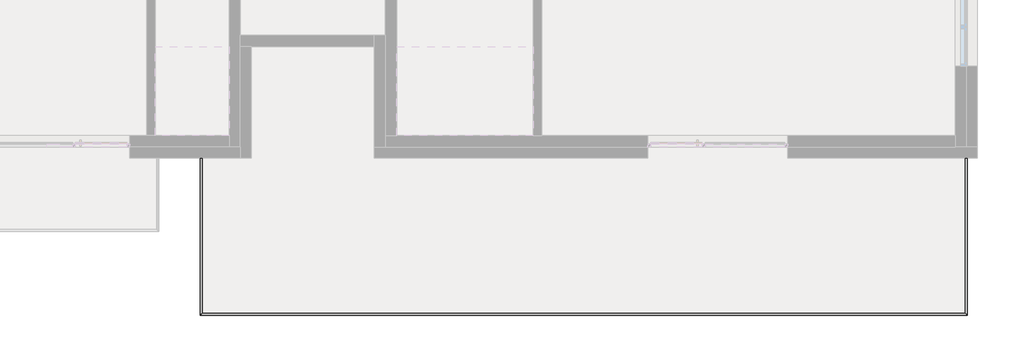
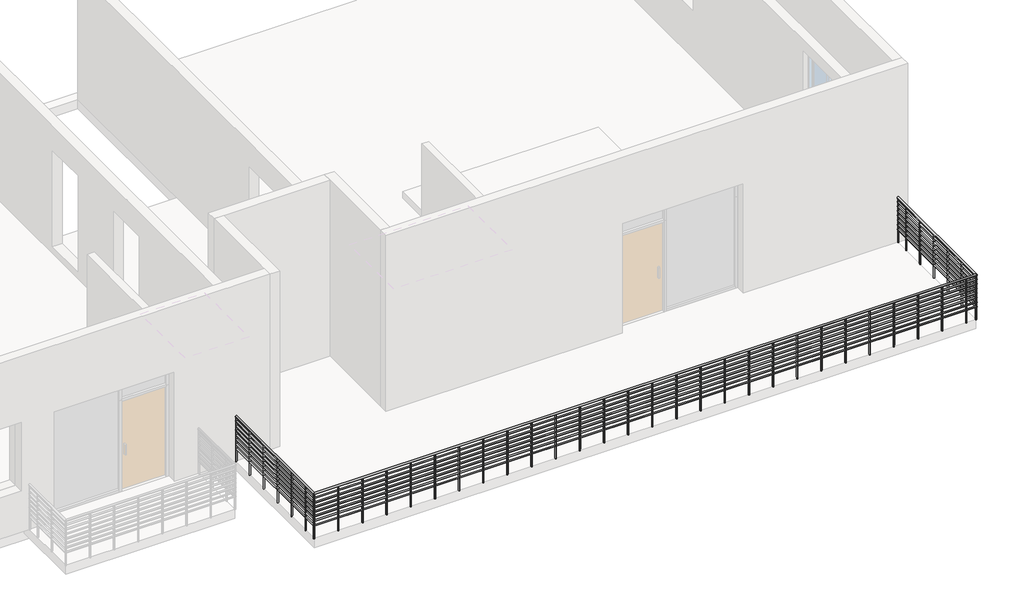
# One storey, part 5 of 6: 1 railing.
"""IFC4 building model written with IfcOpenShell, lengths in millimetres."""

from ifc_helpers import new_model, si_unit, point, frame, frame_2d, origin, place, context, project, spatial, circle_curve, ellipse_curve, trimmed, segment, composite_curve, outline, extrude, element, save
from ifc_brep_helpers import plane_surface, cylinder_surface, advanced_brep

model = new_model("IFC4")

# Units and contexts
model_context = context("Model", 3, world=origin())
ifc_project = project(units=[si_unit("LENGTHUNIT", "METRE", prefix="MILLI")], contexts=[model_context])

# Site, building, storey
site = spatial("IfcSite", under=ifc_project)
building = spatial("IfcBuilding", under=site)
storey = spatial("IfcBuildingStorey", under=building, Name="Podlaží 2", Elevation=3000.0)

# Railing
placement = place(None, origin())
element("IfcRailing", 1, ObjectType="1000 mm trubky", at=placement, inside=storey, context=model_context, shape_type="SolidModel", body=[
    advanced_brep(
    [(9480.0, 2100.0, 3980.0), (9520.0, 2100.0, 3980.0), (9480.0, -720.0, 3980.0), (9520.0, -680.0, 3980.0), (23220.0, -720.0, 3980.0), (23180.0, -680.0, 3980.0), (23220.0, 2100.0, 3980.0), (23180.0, 2100.0, 3980.0)],
    [
        (0, 1, circle_curve(frame((9500.0, 2100.0, 3980.0), z_axis=(0.0, 1.0, 0.0), x_axis=(1.0, 0.0, 0.0)), 20.0)),
        (1, 0, circle_curve(frame((9500.0, 2100.0, 3980.0), z_axis=(0.0, 1.0, 0.0), x_axis=(1.0, 0.0, 0.0)), 20.0)),
        (0, 2),
        (2, 3, ellipse_curve(frame((9500.0, -700.0, 3980.0), z_axis=(-0.707106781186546, 0.7071067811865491, 0.0), x_axis=(0.7071067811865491, 0.7071067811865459, 0.0)), 28.2842712, 20.0)),
        (3, 1),
        (3, 2, ellipse_curve(frame((9500.0, -700.0, 3980.0), z_axis=(-0.707106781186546, 0.7071067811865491, 0.0), x_axis=(0.7071067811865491, 0.7071067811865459, 0.0)), 28.2842712, 20.0)),
        (2, 4),
        (4, 5, ellipse_curve(frame((23200.0, -700.0, 3980.0), z_axis=(-0.707106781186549, -0.7071067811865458, 0.0), x_axis=(-0.7071067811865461, 0.7071067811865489, 0.0)), 28.2842712, 20.0)),
        (5, 3),
        (5, 4, ellipse_curve(frame((23200.0, -700.0, 3980.0), z_axis=(-0.707106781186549, -0.7071067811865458, 0.0), x_axis=(-0.7071067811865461, 0.7071067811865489, 0.0)), 28.2842712, 20.0)),
        (6, 7, circle_curve(frame((23200.0, 2100.0, 3980.0), z_axis=(0.0, 1.0, 0.0), x_axis=(-1.0, 0.0, 0.0)), 20.0)),
        (7, 6, circle_curve(frame((23200.0, 2100.0, 3980.0), z_axis=(0.0, 1.0, 0.0), x_axis=(-1.0, 0.0, 0.0)), 20.0)),
        (4, 6),
        (7, 5),
    ],
    [
        plane_surface(frame((9500.0, 2100.0, 4000.0), z_axis=(0.0, 1.0, 0.0), x_axis=(0.0, 0.0, -1.0))),
        cylinder_surface(frame((9500.0, 2100.0, 3980.0), z_axis=(0.0, 1.0, 0.0), x_axis=(1.0, 0.0, 0.0)), 20.0),
        cylinder_surface(frame((9500.0, -700.0, 3980.0), z_axis=(-1.0, 0.0, 0.0), x_axis=(0.0, 1.0, 0.0)), 20.0),
        plane_surface(frame((23200.0, 2100.0, 4000.0), z_axis=(0.0, 1.0, 0.0), x_axis=(0.0, 0.0, 1.0))),
        cylinder_surface(frame((23200.0, -700.0, 3980.0), z_axis=(0.0, -1.0, 0.0), x_axis=(-1.0, 0.0, 0.0)), 20.0),
    ],
    [
        (0, [[1, 2]]),
        (1, [[-1, 3, 4, 5]]),
        (1, [[-2, -5, 6, -3]]),
        (2, [[-4, 7, 8, 9]]),
        (2, [[-6, -9, 10, -7]]),
        (3, [[11, 12]]),
        (4, [[-8, 13, -12, 14]]),
        (4, [[-10, -14, -11, -13]]),
    ],
),
    advanced_brep(
    [(9515.0, 2100.0, 3885.0), (9485.0, 2100.0, 3885.0), (9515.0, -685.0, 3885.0), (9485.0, -715.0, 3885.0), (23185.0, -685.0, 3885.0), (23215.0, -715.0, 3885.0), (23185.0, 2100.0, 3885.0), (23215.0, 2100.0, 3885.0)],
    [
        (0, 1, circle_curve(frame((9500.0, 2100.0, 3885.0), z_axis=(0.0, 1.0, 0.0), x_axis=(-1.0, 0.0, 0.0)), 15.0)),
        (1, 0, circle_curve(frame((9500.0, 2100.0, 3885.0), z_axis=(0.0, 1.0, 0.0), x_axis=(-1.0, 0.0, 0.0)), 15.0)),
        (0, 2),
        (2, 3, ellipse_curve(frame((9500.0, -700.0, 3885.0), z_axis=(-0.707106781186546, 0.7071067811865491, 0.0), x_axis=(0.7071067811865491, 0.7071067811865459, 0.0)), 21.2132034, 15.0)),
        (3, 1),
        (3, 2, ellipse_curve(frame((9500.0, -700.0, 3885.0), z_axis=(-0.707106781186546, 0.7071067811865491, 0.0), x_axis=(0.7071067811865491, 0.7071067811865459, 0.0)), 21.2132034, 15.0)),
        (2, 4),
        (4, 5, ellipse_curve(frame((23200.0, -700.0, 3885.0), z_axis=(-0.707106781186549, -0.7071067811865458, 0.0), x_axis=(-0.7071067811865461, 0.7071067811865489, 0.0)), 21.2132034, 15.0)),
        (5, 3),
        (5, 4, ellipse_curve(frame((23200.0, -700.0, 3885.0), z_axis=(-0.707106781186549, -0.7071067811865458, 0.0), x_axis=(-0.7071067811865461, 0.7071067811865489, 0.0)), 21.2132034, 15.0)),
        (6, 7, circle_curve(frame((23200.0, 2100.0, 3885.0), z_axis=(0.0, 1.0, 0.0), x_axis=(1.0, 0.0, 0.0)), 15.0)),
        (7, 6, circle_curve(frame((23200.0, 2100.0, 3885.0), z_axis=(0.0, 1.0, 0.0), x_axis=(1.0, 0.0, 0.0)), 15.0)),
        (4, 6),
        (7, 5),
    ],
    [
        plane_surface(frame((9500.0, 2100.0, 3900.0), z_axis=(0.0, 1.0, 0.0), x_axis=(0.0, 0.0, -1.0))),
        cylinder_surface(frame((9500.0, 2100.0, 3885.0), z_axis=(0.0, 1.0, 0.0), x_axis=(-1.0, 0.0, 0.0)), 15.0),
        cylinder_surface(frame((9500.0, -700.0, 3885.0), z_axis=(-1.0, 0.0, 0.0), x_axis=(0.0, -1.0, 0.0)), 15.0),
        plane_surface(frame((23200.0, 2100.0, 3900.0), z_axis=(0.0, 1.0, 0.0), x_axis=(0.0, 0.0, 1.0))),
        cylinder_surface(frame((23200.0, -700.0, 3885.0), z_axis=(0.0, -1.0, 0.0), x_axis=(1.0, 0.0, 0.0)), 15.0),
    ],
    [
        (0, [[1, 2]]),
        (1, [[-1, 3, 4, 5]]),
        (1, [[-2, -5, 6, -3]]),
        (2, [[-4, 7, 8, 9]]),
        (2, [[-6, -9, 10, -7]]),
        (3, [[11, 12]]),
        (4, [[-8, 13, -12, 14]]),
        (4, [[-10, -14, -11, -13]]),
    ],
),
    advanced_brep(
    [(9515.0, 2100.0, 3785.0), (9485.0, 2100.0, 3785.0), (9515.0, -685.0, 3785.0), (9485.0, -715.0, 3785.0), (23185.0, -685.0, 3785.0), (23215.0, -715.0, 3785.0), (23185.0, 2100.0, 3785.0), (23215.0, 2100.0, 3785.0)],
    [
        (0, 1, circle_curve(frame((9500.0, 2100.0, 3785.0), z_axis=(0.0, 1.0, 0.0), x_axis=(-1.0, 0.0, 0.0)), 15.0)),
        (1, 0, circle_curve(frame((9500.0, 2100.0, 3785.0), z_axis=(0.0, 1.0, 0.0), x_axis=(-1.0, 0.0, 0.0)), 15.0)),
        (0, 2),
        (2, 3, ellipse_curve(frame((9500.0, -700.0, 3785.0), z_axis=(-0.707106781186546, 0.7071067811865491, 0.0), x_axis=(0.7071067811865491, 0.7071067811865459, 0.0)), 21.2132034, 15.0)),
        (3, 1),
        (3, 2, ellipse_curve(frame((9500.0, -700.0, 3785.0), z_axis=(-0.707106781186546, 0.7071067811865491, 0.0), x_axis=(0.7071067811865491, 0.7071067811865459, 0.0)), 21.2132034, 15.0)),
        (2, 4),
        (4, 5, ellipse_curve(frame((23200.0, -700.0, 3785.0), z_axis=(-0.707106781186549, -0.7071067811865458, 0.0), x_axis=(-0.7071067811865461, 0.7071067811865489, 0.0)), 21.2132034, 15.0)),
        (5, 3),
        (5, 4, ellipse_curve(frame((23200.0, -700.0, 3785.0), z_axis=(-0.707106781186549, -0.7071067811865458, 0.0), x_axis=(-0.7071067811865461, 0.7071067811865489, 0.0)), 21.2132034, 15.0)),
        (6, 7, circle_curve(frame((23200.0, 2100.0, 3785.0), z_axis=(0.0, 1.0, 0.0), x_axis=(1.0, 0.0, 0.0)), 15.0)),
        (7, 6, circle_curve(frame((23200.0, 2100.0, 3785.0), z_axis=(0.0, 1.0, 0.0), x_axis=(1.0, 0.0, 0.0)), 15.0)),
        (4, 6),
        (7, 5),
    ],
    [
        plane_surface(frame((9500.0, 2100.0, 3800.0), z_axis=(0.0, 1.0, 0.0), x_axis=(0.0, 0.0, -1.0))),
        cylinder_surface(frame((9500.0, 2100.0, 3785.0), z_axis=(0.0, 1.0, 0.0), x_axis=(-1.0, 0.0, 0.0)), 15.0),
        cylinder_surface(frame((9500.0, -700.0, 3785.0), z_axis=(-1.0, 0.0, 0.0), x_axis=(0.0, -1.0, 0.0)), 15.0),
        plane_surface(frame((23200.0, 2100.0, 3800.0), z_axis=(0.0, 1.0, 0.0), x_axis=(0.0, 0.0, 1.0))),
        cylinder_surface(frame((23200.0, -700.0, 3785.0), z_axis=(0.0, -1.0, 0.0), x_axis=(1.0, 0.0, 0.0)), 15.0),
    ],
    [
        (0, [[1, 2]]),
        (1, [[-1, 3, 4, 5]]),
        (1, [[-2, -5, 6, -3]]),
        (2, [[-4, 7, 8, 9]]),
        (2, [[-6, -9, 10, -7]]),
        (3, [[11, 12]]),
        (4, [[-8, 13, -12, 14]]),
        (4, [[-10, -14, -11, -13]]),
    ],
),
    advanced_brep(
    [(9515.0, 2100.0, 3685.0), (9485.0, 2100.0, 3685.0), (9515.0, -685.0, 3685.0), (9485.0, -715.0, 3685.0), (23185.0, -685.0, 3685.0), (23215.0, -715.0, 3685.0), (23185.0, 2100.0, 3685.0), (23215.0, 2100.0, 3685.0)],
    [
        (0, 1, circle_curve(frame((9500.0, 2100.0, 3685.0), z_axis=(0.0, 1.0, 0.0), x_axis=(-1.0, 0.0, 0.0)), 15.0)),
        (1, 0, circle_curve(frame((9500.0, 2100.0, 3685.0), z_axis=(0.0, 1.0, 0.0), x_axis=(-1.0, 0.0, 0.0)), 15.0)),
        (0, 2),
        (2, 3, ellipse_curve(frame((9500.0, -700.0, 3685.0), z_axis=(-0.707106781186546, 0.7071067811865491, 0.0), x_axis=(0.7071067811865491, 0.7071067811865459, 0.0)), 21.2132034, 15.0)),
        (3, 1),
        (3, 2, ellipse_curve(frame((9500.0, -700.0, 3685.0), z_axis=(-0.707106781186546, 0.7071067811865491, 0.0), x_axis=(0.7071067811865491, 0.7071067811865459, 0.0)), 21.2132034, 15.0)),
        (2, 4),
        (4, 5, ellipse_curve(frame((23200.0, -700.0, 3685.0), z_axis=(-0.707106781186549, -0.7071067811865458, 0.0), x_axis=(-0.7071067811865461, 0.7071067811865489, 0.0)), 21.2132034, 15.0)),
        (5, 3),
        (5, 4, ellipse_curve(frame((23200.0, -700.0, 3685.0), z_axis=(-0.707106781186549, -0.7071067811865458, 0.0), x_axis=(-0.7071067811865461, 0.7071067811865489, 0.0)), 21.2132034, 15.0)),
        (6, 7, circle_curve(frame((23200.0, 2100.0, 3685.0), z_axis=(0.0, 1.0, 0.0), x_axis=(1.0, 0.0, 0.0)), 15.0)),
        (7, 6, circle_curve(frame((23200.0, 2100.0, 3685.0), z_axis=(0.0, 1.0, 0.0), x_axis=(1.0, 0.0, 0.0)), 15.0)),
        (4, 6),
        (7, 5),
    ],
    [
        plane_surface(frame((9500.0, 2100.0, 3700.0), z_axis=(0.0, 1.0, 0.0), x_axis=(0.0, 0.0, -1.0))),
        cylinder_surface(frame((9500.0, 2100.0, 3685.0), z_axis=(0.0, 1.0, 0.0), x_axis=(-1.0, 0.0, 0.0)), 15.0),
        cylinder_surface(frame((9500.0, -700.0, 3685.0), z_axis=(-1.0, 0.0, 0.0), x_axis=(0.0, -1.0, 0.0)), 15.0),
        plane_surface(frame((23200.0, 2100.0, 3700.0), z_axis=(0.0, 1.0, 0.0), x_axis=(0.0, 0.0, 1.0))),
        cylinder_surface(frame((23200.0, -700.0, 3685.0), z_axis=(0.0, -1.0, 0.0), x_axis=(1.0, 0.0, 0.0)), 15.0),
    ],
    [
        (0, [[1, 2]]),
        (1, [[-1, 3, 4, 5]]),
        (1, [[-2, -5, 6, -3]]),
        (2, [[-4, 7, 8, 9]]),
        (2, [[-6, -9, 10, -7]]),
        (3, [[11, 12]]),
        (4, [[-8, 13, -12, 14]]),
        (4, [[-10, -14, -11, -13]]),
    ],
),
    advanced_brep(
    [(9515.0, 2100.0, 3585.0), (9485.0, 2100.0, 3585.0), (9515.0, -685.0, 3585.0), (9485.0, -715.0, 3585.0), (23185.0, -685.0, 3585.0), (23215.0, -715.0, 3585.0), (23185.0, 2100.0, 3585.0), (23215.0, 2100.0, 3585.0)],
    [
        (0, 1, circle_curve(frame((9500.0, 2100.0, 3585.0), z_axis=(0.0, 1.0, 0.0), x_axis=(-1.0, 0.0, 0.0)), 15.0)),
        (1, 0, circle_curve(frame((9500.0, 2100.0, 3585.0), z_axis=(0.0, 1.0, 0.0), x_axis=(-1.0, 0.0, 0.0)), 15.0)),
        (0, 2),
        (2, 3, ellipse_curve(frame((9500.0, -700.0, 3585.0), z_axis=(-0.707106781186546, 0.7071067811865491, 0.0), x_axis=(0.7071067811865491, 0.7071067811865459, 0.0)), 21.2132034, 15.0)),
        (3, 1),
        (3, 2, ellipse_curve(frame((9500.0, -700.0, 3585.0), z_axis=(-0.707106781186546, 0.7071067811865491, 0.0), x_axis=(0.7071067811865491, 0.7071067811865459, 0.0)), 21.2132034, 15.0)),
        (2, 4),
        (4, 5, ellipse_curve(frame((23200.0, -700.0, 3585.0), z_axis=(-0.707106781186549, -0.7071067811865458, 0.0), x_axis=(-0.7071067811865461, 0.7071067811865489, 0.0)), 21.2132034, 15.0)),
        (5, 3),
        (5, 4, ellipse_curve(frame((23200.0, -700.0, 3585.0), z_axis=(-0.707106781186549, -0.7071067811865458, 0.0), x_axis=(-0.7071067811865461, 0.7071067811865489, 0.0)), 21.2132034, 15.0)),
        (6, 7, circle_curve(frame((23200.0, 2100.0, 3585.0), z_axis=(0.0, 1.0, 0.0), x_axis=(1.0, 0.0, 0.0)), 15.0)),
        (7, 6, circle_curve(frame((23200.0, 2100.0, 3585.0), z_axis=(0.0, 1.0, 0.0), x_axis=(1.0, 0.0, 0.0)), 15.0)),
        (4, 6),
        (7, 5),
    ],
    [
        plane_surface(frame((9500.0, 2100.0, 3600.0), z_axis=(0.0, 1.0, 0.0), x_axis=(0.0, 0.0, -1.0))),
        cylinder_surface(frame((9500.0, 2100.0, 3585.0), z_axis=(0.0, 1.0, 0.0), x_axis=(-1.0, 0.0, 0.0)), 15.0),
        cylinder_surface(frame((9500.0, -700.0, 3585.0), z_axis=(-1.0, 0.0, 0.0), x_axis=(0.0, -1.0, 0.0)), 15.0),
        plane_surface(frame((23200.0, 2100.0, 3600.0), z_axis=(0.0, 1.0, 0.0), x_axis=(0.0, 0.0, 1.0))),
        cylinder_surface(frame((23200.0, -700.0, 3585.0), z_axis=(0.0, -1.0, 0.0), x_axis=(1.0, 0.0, 0.0)), 15.0),
    ],
    [
        (0, [[1, 2]]),
        (1, [[-1, 3, 4, 5]]),
        (1, [[-2, -5, 6, -3]]),
        (2, [[-4, 7, 8, 9]]),
        (2, [[-6, -9, 10, -7]]),
        (3, [[11, 12]]),
        (4, [[-8, 13, -12, 14]]),
        (4, [[-10, -14, -11, -13]]),
    ],
),
    advanced_brep(
    [(9515.0, 2100.0, 3485.0), (9485.0, 2100.0, 3485.0), (9515.0, -685.0, 3485.0), (9485.0, -715.0, 3485.0), (23185.0, -685.0, 3485.0), (23215.0, -715.0, 3485.0), (23185.0, 2100.0, 3485.0), (23215.0, 2100.0, 3485.0)],
    [
        (0, 1, circle_curve(frame((9500.0, 2100.0, 3485.0), z_axis=(0.0, 1.0, 0.0), x_axis=(-1.0, 0.0, 0.0)), 15.0)),
        (1, 0, circle_curve(frame((9500.0, 2100.0, 3485.0), z_axis=(0.0, 1.0, 0.0), x_axis=(-1.0, 0.0, 0.0)), 15.0)),
        (0, 2),
        (2, 3, ellipse_curve(frame((9500.0, -700.0, 3485.0), z_axis=(-0.707106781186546, 0.7071067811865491, 0.0), x_axis=(0.7071067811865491, 0.7071067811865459, 0.0)), 21.2132034, 15.0)),
        (3, 1),
        (3, 2, ellipse_curve(frame((9500.0, -700.0, 3485.0), z_axis=(-0.707106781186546, 0.7071067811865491, 0.0), x_axis=(0.7071067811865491, 0.7071067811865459, 0.0)), 21.2132034, 15.0)),
        (2, 4),
        (4, 5, ellipse_curve(frame((23200.0, -700.0, 3485.0), z_axis=(-0.707106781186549, -0.7071067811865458, 0.0), x_axis=(-0.7071067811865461, 0.7071067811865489, 0.0)), 21.2132034, 15.0)),
        (5, 3),
        (5, 4, ellipse_curve(frame((23200.0, -700.0, 3485.0), z_axis=(-0.707106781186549, -0.7071067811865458, 0.0), x_axis=(-0.7071067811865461, 0.7071067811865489, 0.0)), 21.2132034, 15.0)),
        (6, 7, circle_curve(frame((23200.0, 2100.0, 3485.0), z_axis=(0.0, 1.0, 0.0), x_axis=(1.0, 0.0, 0.0)), 15.0)),
        (7, 6, circle_curve(frame((23200.0, 2100.0, 3485.0), z_axis=(0.0, 1.0, 0.0), x_axis=(1.0, 0.0, 0.0)), 15.0)),
        (4, 6),
        (7, 5),
    ],
    [
        plane_surface(frame((9500.0, 2100.0, 3500.0), z_axis=(0.0, 1.0, 0.0), x_axis=(0.0, 0.0, -1.0))),
        cylinder_surface(frame((9500.0, 2100.0, 3485.0), z_axis=(0.0, 1.0, 0.0), x_axis=(-1.0, 0.0, 0.0)), 15.0),
        cylinder_surface(frame((9500.0, -700.0, 3485.0), z_axis=(-1.0, 0.0, 0.0), x_axis=(0.0, -1.0, 0.0)), 15.0),
        plane_surface(frame((23200.0, 2100.0, 3500.0), z_axis=(0.0, 1.0, 0.0), x_axis=(0.0, 0.0, 1.0))),
        cylinder_surface(frame((23200.0, -700.0, 3485.0), z_axis=(0.0, -1.0, 0.0), x_axis=(1.0, 0.0, 0.0)), 15.0),
    ],
    [
        (0, [[1, 2]]),
        (1, [[-1, 3, 4, 5]]),
        (1, [[-2, -5, 6, -3]]),
        (2, [[-4, 7, 8, 9]]),
        (2, [[-6, -9, 10, -7]]),
        (3, [[11, 12]]),
        (4, [[-8, 13, -12, 14]]),
        (4, [[-10, -14, -11, -13]]),
    ],
),
    advanced_brep(
    [(9515.0, 2100.0, 3385.0), (9485.0, 2100.0, 3385.0), (9515.0, -685.0, 3385.0), (9485.0, -715.0, 3385.0), (23185.0, -685.0, 3385.0), (23215.0, -715.0, 3385.0), (23185.0, 2100.0, 3385.0), (23215.0, 2100.0, 3385.0)],
    [
        (0, 1, circle_curve(frame((9500.0, 2100.0, 3385.0), z_axis=(0.0, 1.0, 0.0), x_axis=(-1.0, 0.0, 0.0)), 15.0)),
        (1, 0, circle_curve(frame((9500.0, 2100.0, 3385.0), z_axis=(0.0, 1.0, 0.0), x_axis=(-1.0, 0.0, 0.0)), 15.0)),
        (0, 2),
        (2, 3, ellipse_curve(frame((9500.0, -700.0, 3385.0), z_axis=(-0.707106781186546, 0.7071067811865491, 0.0), x_axis=(0.7071067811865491, 0.7071067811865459, 0.0)), 21.2132034, 15.0)),
        (3, 1),
        (3, 2, ellipse_curve(frame((9500.0, -700.0, 3385.0), z_axis=(-0.707106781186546, 0.7071067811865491, 0.0), x_axis=(0.7071067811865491, 0.7071067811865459, 0.0)), 21.2132034, 15.0)),
        (2, 4),
        (4, 5, ellipse_curve(frame((23200.0, -700.0, 3385.0), z_axis=(-0.707106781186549, -0.7071067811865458, 0.0), x_axis=(-0.7071067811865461, 0.7071067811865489, 0.0)), 21.2132034, 15.0)),
        (5, 3),
        (5, 4, ellipse_curve(frame((23200.0, -700.0, 3385.0), z_axis=(-0.707106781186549, -0.7071067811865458, 0.0), x_axis=(-0.7071067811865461, 0.7071067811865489, 0.0)), 21.2132034, 15.0)),
        (6, 7, circle_curve(frame((23200.0, 2100.0, 3385.0), z_axis=(0.0, 1.0, 0.0), x_axis=(1.0, 0.0, 0.0)), 15.0)),
        (7, 6, circle_curve(frame((23200.0, 2100.0, 3385.0), z_axis=(0.0, 1.0, 0.0), x_axis=(1.0, 0.0, 0.0)), 15.0)),
        (4, 6),
        (7, 5),
    ],
    [
        plane_surface(frame((9500.0, 2100.0, 3400.0), z_axis=(0.0, 1.0, 0.0), x_axis=(0.0, 0.0, -1.0))),
        cylinder_surface(frame((9500.0, 2100.0, 3385.0), z_axis=(0.0, 1.0, 0.0), x_axis=(-1.0, 0.0, 0.0)), 15.0),
        cylinder_surface(frame((9500.0, -700.0, 3385.0), z_axis=(-1.0, 0.0, 0.0), x_axis=(0.0, -1.0, 0.0)), 15.0),
        plane_surface(frame((23200.0, 2100.0, 3400.0), z_axis=(0.0, 1.0, 0.0), x_axis=(0.0, 0.0, 1.0))),
        cylinder_surface(frame((23200.0, -700.0, 3385.0), z_axis=(0.0, -1.0, 0.0), x_axis=(1.0, 0.0, 0.0)), 15.0),
    ],
    [
        (0, [[1, 2]]),
        (1, [[-1, 3, 4, 5]]),
        (1, [[-2, -5, 6, -3]]),
        (2, [[-4, 7, 8, 9]]),
        (2, [[-6, -9, 10, -7]]),
        (3, [[11, 12]]),
        (4, [[-8, 13, -12, 14]]),
        (4, [[-10, -14, -11, -13]]),
    ],
),
    advanced_brep(
    [(9515.0, 2100.0, 3285.0), (9485.0, 2100.0, 3285.0), (9515.0, -685.0, 3285.0), (9485.0, -715.0, 3285.0), (23185.0, -685.0, 3285.0), (23215.0, -715.0, 3285.0), (23185.0, 2100.0, 3285.0), (23215.0, 2100.0, 3285.0)],
    [
        (0, 1, circle_curve(frame((9500.0, 2100.0, 3285.0), z_axis=(0.0, 1.0, 0.0), x_axis=(-1.0, 0.0, 0.0)), 15.0)),
        (1, 0, circle_curve(frame((9500.0, 2100.0, 3285.0), z_axis=(0.0, 1.0, 0.0), x_axis=(-1.0, 0.0, 0.0)), 15.0)),
        (0, 2),
        (2, 3, ellipse_curve(frame((9500.0, -700.0, 3285.0), z_axis=(-0.707106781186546, 0.7071067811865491, 0.0), x_axis=(0.7071067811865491, 0.7071067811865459, 0.0)), 21.2132034, 15.0)),
        (3, 1),
        (3, 2, ellipse_curve(frame((9500.0, -700.0, 3285.0), z_axis=(-0.707106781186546, 0.7071067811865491, 0.0), x_axis=(0.7071067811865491, 0.7071067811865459, 0.0)), 21.2132034, 15.0)),
        (2, 4),
        (4, 5, ellipse_curve(frame((23200.0, -700.0, 3285.0), z_axis=(-0.707106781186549, -0.7071067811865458, 0.0), x_axis=(-0.7071067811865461, 0.7071067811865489, 0.0)), 21.2132034, 15.0)),
        (5, 3),
        (5, 4, ellipse_curve(frame((23200.0, -700.0, 3285.0), z_axis=(-0.707106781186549, -0.7071067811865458, 0.0), x_axis=(-0.7071067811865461, 0.7071067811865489, 0.0)), 21.2132034, 15.0)),
        (6, 7, circle_curve(frame((23200.0, 2100.0, 3285.0), z_axis=(0.0, 1.0, 0.0), x_axis=(1.0, 0.0, 0.0)), 15.0)),
        (7, 6, circle_curve(frame((23200.0, 2100.0, 3285.0), z_axis=(0.0, 1.0, 0.0), x_axis=(1.0, 0.0, 0.0)), 15.0)),
        (4, 6),
        (7, 5),
    ],
    [
        plane_surface(frame((9500.0, 2100.0, 3300.0), z_axis=(0.0, 1.0, 0.0), x_axis=(0.0, 0.0, -1.0))),
        cylinder_surface(frame((9500.0, 2100.0, 3285.0), z_axis=(0.0, 1.0, 0.0), x_axis=(-1.0, 0.0, 0.0)), 15.0),
        cylinder_surface(frame((9500.0, -700.0, 3285.0), z_axis=(-1.0, 0.0, 0.0), x_axis=(0.0, -1.0, 0.0)), 15.0),
        plane_surface(frame((23200.0, 2100.0, 3300.0), z_axis=(0.0, 1.0, 0.0), x_axis=(0.0, 0.0, 1.0))),
        cylinder_surface(frame((23200.0, -700.0, 3285.0), z_axis=(0.0, -1.0, 0.0), x_axis=(1.0, 0.0, 0.0)), 15.0),
    ],
    [
        (0, [[1, 2]]),
        (1, [[-1, 3, 4, 5]]),
        (1, [[-2, -5, 6, -3]]),
        (2, [[-4, 7, 8, 9]]),
        (2, [[-6, -9, 10, -7]]),
        (3, [[11, 12]]),
        (4, [[-8, 13, -12, 14]]),
        (4, [[-10, -14, -11, -13]]),
    ],
),
    extrude(outline(composite_curve([segment(trimmed(circle_curve(frame_2d((23200.0, 1800.0)), 12.5), [point((23187.5, 1800.0))], [point((23212.5, 1800.0))], False, "CARTESIAN"), True, "CONTINUOUS"), segment(trimmed(circle_curve(frame_2d((23200.0, 1800.0)), 12.5), [point((23212.5, 1800.0))], [point((23187.5, 1800.0))], False, "CARTESIAN"), True, "CONTINUOUS")], self_intersect=False)), frame((0.0, 0.0, 3000.0), z_axis=(0.0, 0.0, 1.0), x_axis=(1.0, 0.0, 0.0)), (0.0, 0.0, 1.0), 960.0),
    extrude(outline(composite_curve([segment(trimmed(circle_curve(frame_2d((23200.0, 1300.0)), 12.5), [point((23187.5, 1300.0))], [point((23212.5, 1300.0))], False, "CARTESIAN"), True, "CONTINUOUS"), segment(trimmed(circle_curve(frame_2d((23200.0, 1300.0)), 12.5), [point((23212.5, 1300.0))], [point((23187.5, 1300.0))], False, "CARTESIAN"), True, "CONTINUOUS")], self_intersect=False)), frame((0.0, 0.0, 3000.0), z_axis=(0.0, 0.0, 1.0), x_axis=(1.0, 0.0, 0.0)), (0.0, 0.0, 1.0), 960.0),
    extrude(outline(composite_curve([segment(trimmed(circle_curve(frame_2d((23200.0, 800.0)), 12.5), [point((23187.5, 800.0))], [point((23212.5, 800.0))], False, "CARTESIAN"), True, "CONTINUOUS"), segment(trimmed(circle_curve(frame_2d((23200.0, 800.0)), 12.5), [point((23212.5, 800.0))], [point((23187.5, 800.0))], False, "CARTESIAN"), True, "CONTINUOUS")], self_intersect=False)), frame((0.0, 0.0, 3000.0), z_axis=(0.0, 0.0, 1.0), x_axis=(1.0, 0.0, 0.0)), (0.0, 0.0, 1.0), 960.0),
    extrude(outline(composite_curve([segment(trimmed(circle_curve(frame_2d((23200.0, 300.0)), 12.5), [point((23187.5, 300.0))], [point((23212.5, 300.0))], False, "CARTESIAN"), True, "CONTINUOUS"), segment(trimmed(circle_curve(frame_2d((23200.0, 300.0)), 12.5), [point((23212.5, 300.0))], [point((23187.5, 300.0))], False, "CARTESIAN"), True, "CONTINUOUS")], self_intersect=False)), frame((0.0, 0.0, 3000.0), z_axis=(0.0, 0.0, 1.0), x_axis=(1.0, 0.0, 0.0)), (0.0, 0.0, 1.0), 960.0),
    extrude(outline(composite_curve([segment(trimmed(circle_curve(frame_2d((23200.0, -200.0)), 12.5), [point((23187.5, -200.0))], [point((23212.5, -200.0))], False, "CARTESIAN"), True, "CONTINUOUS"), segment(trimmed(circle_curve(frame_2d((23200.0, -200.0)), 12.5), [point((23212.5, -200.0))], [point((23187.5, -200.0))], False, "CARTESIAN"), True, "CONTINUOUS")], self_intersect=False)), frame((0.0, 0.0, 3000.0), z_axis=(0.0, 0.0, 1.0), x_axis=(1.0, 0.0, 0.0)), (0.0, 0.0, 1.0), 960.0),
    extrude(outline(composite_curve([segment(trimmed(circle_curve(frame_2d((23000.0, -700.0)), 12.5), [point((23000.0, -687.5))], [point((23000.0, -712.5))], False, "CARTESIAN"), True, "CONTINUOUS"), segment(trimmed(circle_curve(frame_2d((23000.0, -700.0)), 12.5), [point((23000.0, -712.5))], [point((23000.0, -687.5))], False, "CARTESIAN"), True, "CONTINUOUS")], self_intersect=False)), frame((0.0, 0.0, 3000.0), z_axis=(0.0, 0.0, 1.0), x_axis=(1.0, 0.0, 0.0)), (0.0, 0.0, 1.0), 960.0),
    extrude(outline(composite_curve([segment(trimmed(circle_curve(frame_2d((22500.0, -700.0)), 12.5), [point((22500.0, -687.5))], [point((22500.0, -712.5))], False, "CARTESIAN"), True, "CONTINUOUS"), segment(trimmed(circle_curve(frame_2d((22500.0, -700.0)), 12.5), [point((22500.0, -712.5))], [point((22500.0, -687.5))], False, "CARTESIAN"), True, "CONTINUOUS")], self_intersect=False)), frame((0.0, 0.0, 3000.0), z_axis=(0.0, 0.0, 1.0), x_axis=(1.0, 0.0, 0.0)), (0.0, 0.0, 1.0), 960.0),
    extrude(outline(composite_curve([segment(trimmed(circle_curve(frame_2d((22000.0, -700.0)), 12.5), [point((22000.0, -687.5))], [point((22000.0, -712.5))], False, "CARTESIAN"), True, "CONTINUOUS"), segment(trimmed(circle_curve(frame_2d((22000.0, -700.0)), 12.5), [point((22000.0, -712.5))], [point((22000.0, -687.5))], False, "CARTESIAN"), True, "CONTINUOUS")], self_intersect=False)), frame((0.0, 0.0, 3000.0), z_axis=(0.0, 0.0, 1.0), x_axis=(1.0, 0.0, 0.0)), (0.0, 0.0, 1.0), 960.0),
    extrude(outline(composite_curve([segment(trimmed(circle_curve(frame_2d((21500.0, -700.0)), 12.5), [point((21500.0, -687.5))], [point((21500.0, -712.5))], False, "CARTESIAN"), True, "CONTINUOUS"), segment(trimmed(circle_curve(frame_2d((21500.0, -700.0)), 12.5), [point((21500.0, -712.5))], [point((21500.0, -687.5))], False, "CARTESIAN"), True, "CONTINUOUS")], self_intersect=False)), frame((0.0, 0.0, 3000.0), z_axis=(0.0, 0.0, 1.0), x_axis=(1.0, 0.0, 0.0)), (0.0, 0.0, 1.0), 960.0),
    extrude(outline(composite_curve([segment(trimmed(circle_curve(frame_2d((21000.0, -700.0)), 12.5), [point((21000.0, -687.5))], [point((21000.0, -712.5))], False, "CARTESIAN"), True, "CONTINUOUS"), segment(trimmed(circle_curve(frame_2d((21000.0, -700.0)), 12.5), [point((21000.0, -712.5))], [point((21000.0, -687.5))], False, "CARTESIAN"), True, "CONTINUOUS")], self_intersect=False)), frame((0.0, 0.0, 3000.0), z_axis=(0.0, 0.0, 1.0), x_axis=(1.0, 0.0, 0.0)), (0.0, 0.0, 1.0), 960.0),
    extrude(outline(composite_curve([segment(trimmed(circle_curve(frame_2d((20500.0, -700.0)), 12.5), [point((20500.0, -687.5))], [point((20500.0, -712.5))], False, "CARTESIAN"), True, "CONTINUOUS"), segment(trimmed(circle_curve(frame_2d((20500.0, -700.0)), 12.5), [point((20500.0, -712.5))], [point((20500.0, -687.5))], False, "CARTESIAN"), True, "CONTINUOUS")], self_intersect=False)), frame((0.0, 0.0, 3000.0), z_axis=(0.0, 0.0, 1.0), x_axis=(1.0, 0.0, 0.0)), (0.0, 0.0, 1.0), 960.0),
    extrude(outline(composite_curve([segment(trimmed(circle_curve(frame_2d((20000.0, -700.0)), 12.5), [point((20000.0, -687.5))], [point((20000.0, -712.5))], False, "CARTESIAN"), True, "CONTINUOUS"), segment(trimmed(circle_curve(frame_2d((20000.0, -700.0)), 12.5), [point((20000.0, -712.5))], [point((20000.0, -687.5))], False, "CARTESIAN"), True, "CONTINUOUS")], self_intersect=False)), frame((0.0, 0.0, 3000.0), z_axis=(0.0, 0.0, 1.0), x_axis=(1.0, 0.0, 0.0)), (0.0, 0.0, 1.0), 960.0),
    extrude(outline(composite_curve([segment(trimmed(circle_curve(frame_2d((19500.0, -700.0)), 12.5), [point((19500.0, -687.5))], [point((19500.0, -712.5))], False, "CARTESIAN"), True, "CONTINUOUS"), segment(trimmed(circle_curve(frame_2d((19500.0, -700.0)), 12.5), [point((19500.0, -712.5))], [point((19500.0, -687.5))], False, "CARTESIAN"), True, "CONTINUOUS")], self_intersect=False)), frame((0.0, 0.0, 3000.0), z_axis=(0.0, 0.0, 1.0), x_axis=(1.0, 0.0, 0.0)), (0.0, 0.0, 1.0), 960.0),
    extrude(outline(composite_curve([segment(trimmed(circle_curve(frame_2d((19000.0, -700.0)), 12.5), [point((19000.0, -687.5))], [point((19000.0, -712.5))], False, "CARTESIAN"), True, "CONTINUOUS"), segment(trimmed(circle_curve(frame_2d((19000.0, -700.0)), 12.5), [point((19000.0, -712.5))], [point((19000.0, -687.5))], False, "CARTESIAN"), True, "CONTINUOUS")], self_intersect=False)), frame((0.0, 0.0, 3000.0), z_axis=(0.0, 0.0, 1.0), x_axis=(1.0, 0.0, 0.0)), (0.0, 0.0, 1.0), 960.0),
    extrude(outline(composite_curve([segment(trimmed(circle_curve(frame_2d((18500.0, -700.0)), 12.5), [point((18500.0, -687.5))], [point((18500.0, -712.5))], False, "CARTESIAN"), True, "CONTINUOUS"), segment(trimmed(circle_curve(frame_2d((18500.0, -700.0)), 12.5), [point((18500.0, -712.5))], [point((18500.0, -687.5))], False, "CARTESIAN"), True, "CONTINUOUS")], self_intersect=False)), frame((0.0, 0.0, 3000.0), z_axis=(0.0, 0.0, 1.0), x_axis=(1.0, 0.0, 0.0)), (0.0, 0.0, 1.0), 960.0),
    extrude(outline(composite_curve([segment(trimmed(circle_curve(frame_2d((18000.0, -700.0)), 12.5), [point((18000.0, -687.5))], [point((18000.0, -712.5))], False, "CARTESIAN"), True, "CONTINUOUS"), segment(trimmed(circle_curve(frame_2d((18000.0, -700.0)), 12.5), [point((18000.0, -712.5))], [point((18000.0, -687.5))], False, "CARTESIAN"), True, "CONTINUOUS")], self_intersect=False)), frame((0.0, 0.0, 3000.0), z_axis=(0.0, 0.0, 1.0), x_axis=(1.0, 0.0, 0.0)), (0.0, 0.0, 1.0), 960.0),
    extrude(outline(composite_curve([segment(trimmed(circle_curve(frame_2d((17500.0, -700.0)), 12.5), [point((17500.0, -687.5))], [point((17500.0, -712.5))], False, "CARTESIAN"), True, "CONTINUOUS"), segment(trimmed(circle_curve(frame_2d((17500.0, -700.0)), 12.5), [point((17500.0, -712.5))], [point((17500.0, -687.5))], False, "CARTESIAN"), True, "CONTINUOUS")], self_intersect=False)), frame((0.0, 0.0, 3000.0), z_axis=(0.0, 0.0, 1.0), x_axis=(1.0, 0.0, 0.0)), (0.0, 0.0, 1.0), 960.0),
    extrude(outline(composite_curve([segment(trimmed(circle_curve(frame_2d((17000.0, -700.0)), 12.5), [point((17000.0, -687.5))], [point((17000.0, -712.5))], False, "CARTESIAN"), True, "CONTINUOUS"), segment(trimmed(circle_curve(frame_2d((17000.0, -700.0)), 12.5), [point((17000.0, -712.5))], [point((17000.0, -687.5))], False, "CARTESIAN"), True, "CONTINUOUS")], self_intersect=False)), frame((0.0, 0.0, 3000.0), z_axis=(0.0, 0.0, 1.0), x_axis=(1.0, 0.0, 0.0)), (0.0, 0.0, 1.0), 960.0),
    extrude(outline(composite_curve([segment(trimmed(circle_curve(frame_2d((16500.0, -700.0)), 12.5), [point((16500.0, -687.5))], [point((16500.0, -712.5))], False, "CARTESIAN"), True, "CONTINUOUS"), segment(trimmed(circle_curve(frame_2d((16500.0, -700.0)), 12.5), [point((16500.0, -712.5))], [point((16500.0, -687.5))], False, "CARTESIAN"), True, "CONTINUOUS")], self_intersect=False)), frame((0.0, 0.0, 3000.0), z_axis=(0.0, 0.0, 1.0), x_axis=(1.0, 0.0, 0.0)), (0.0, 0.0, 1.0), 960.0),
    extrude(outline(composite_curve([segment(trimmed(circle_curve(frame_2d((16000.0, -700.0)), 12.5), [point((16000.0, -687.5))], [point((16000.0, -712.5))], False, "CARTESIAN"), True, "CONTINUOUS"), segment(trimmed(circle_curve(frame_2d((16000.0, -700.0)), 12.5), [point((16000.0, -712.5))], [point((16000.0, -687.5))], False, "CARTESIAN"), True, "CONTINUOUS")], self_intersect=False)), frame((0.0, 0.0, 3000.0), z_axis=(0.0, 0.0, 1.0), x_axis=(1.0, 0.0, 0.0)), (0.0, 0.0, 1.0), 960.0),
    extrude(outline(composite_curve([segment(trimmed(circle_curve(frame_2d((15500.0, -700.0)), 12.5), [point((15500.0, -687.5))], [point((15500.0, -712.5))], False, "CARTESIAN"), True, "CONTINUOUS"), segment(trimmed(circle_curve(frame_2d((15500.0, -700.0)), 12.5), [point((15500.0, -712.5))], [point((15500.0, -687.5))], False, "CARTESIAN"), True, "CONTINUOUS")], self_intersect=False)), frame((0.0, 0.0, 3000.0), z_axis=(0.0, 0.0, 1.0), x_axis=(1.0, 0.0, 0.0)), (0.0, 0.0, 1.0), 960.0),
    extrude(outline(composite_curve([segment(trimmed(circle_curve(frame_2d((15000.0, -700.0)), 12.5), [point((15000.0, -687.5))], [point((15000.0, -712.5))], False, "CARTESIAN"), True, "CONTINUOUS"), segment(trimmed(circle_curve(frame_2d((15000.0, -700.0)), 12.5), [point((15000.0, -712.5))], [point((15000.0, -687.5))], False, "CARTESIAN"), True, "CONTINUOUS")], self_intersect=False)), frame((0.0, 0.0, 3000.0), z_axis=(0.0, 0.0, 1.0), x_axis=(1.0, 0.0, 0.0)), (0.0, 0.0, 1.0), 960.0),
    extrude(outline(composite_curve([segment(trimmed(circle_curve(frame_2d((14500.0, -700.0)), 12.5), [point((14500.0, -687.5))], [point((14500.0, -712.5))], False, "CARTESIAN"), True, "CONTINUOUS"), segment(trimmed(circle_curve(frame_2d((14500.0, -700.0)), 12.5), [point((14500.0, -712.5))], [point((14500.0, -687.5))], False, "CARTESIAN"), True, "CONTINUOUS")], self_intersect=False)), frame((0.0, 0.0, 3000.0), z_axis=(0.0, 0.0, 1.0), x_axis=(1.0, 0.0, 0.0)), (0.0, 0.0, 1.0), 960.0),
    extrude(outline(composite_curve([segment(trimmed(circle_curve(frame_2d((14000.0, -700.0)), 12.5), [point((14000.0, -687.5))], [point((14000.0, -712.5))], False, "CARTESIAN"), True, "CONTINUOUS"), segment(trimmed(circle_curve(frame_2d((14000.0, -700.0)), 12.5), [point((14000.0, -712.5))], [point((14000.0, -687.5))], False, "CARTESIAN"), True, "CONTINUOUS")], self_intersect=False)), frame((0.0, 0.0, 3000.0), z_axis=(0.0, 0.0, 1.0), x_axis=(1.0, 0.0, 0.0)), (0.0, 0.0, 1.0), 960.0),
    extrude(outline(composite_curve([segment(trimmed(circle_curve(frame_2d((13500.0, -700.0)), 12.5), [point((13500.0, -687.5))], [point((13500.0, -712.5))], False, "CARTESIAN"), True, "CONTINUOUS"), segment(trimmed(circle_curve(frame_2d((13500.0, -700.0)), 12.5), [point((13500.0, -712.5))], [point((13500.0, -687.5))], False, "CARTESIAN"), True, "CONTINUOUS")], self_intersect=False)), frame((0.0, 0.0, 3000.0), z_axis=(0.0, 0.0, 1.0), x_axis=(1.0, 0.0, 0.0)), (0.0, 0.0, 1.0), 960.0),
    extrude(outline(composite_curve([segment(trimmed(circle_curve(frame_2d((13000.0, -700.0)), 12.5), [point((13000.0, -687.5))], [point((13000.0, -712.5))], False, "CARTESIAN"), True, "CONTINUOUS"), segment(trimmed(circle_curve(frame_2d((13000.0, -700.0)), 12.5), [point((13000.0, -712.5))], [point((13000.0, -687.5))], False, "CARTESIAN"), True, "CONTINUOUS")], self_intersect=False)), frame((0.0, 0.0, 3000.0), z_axis=(0.0, 0.0, 1.0), x_axis=(1.0, 0.0, 0.0)), (0.0, 0.0, 1.0), 960.0),
    extrude(outline(composite_curve([segment(trimmed(circle_curve(frame_2d((12500.0, -700.0)), 12.5), [point((12500.0, -687.5))], [point((12500.0, -712.5))], False, "CARTESIAN"), True, "CONTINUOUS"), segment(trimmed(circle_curve(frame_2d((12500.0, -700.0)), 12.5), [point((12500.0, -712.5))], [point((12500.0, -687.5))], False, "CARTESIAN"), True, "CONTINUOUS")], self_intersect=False)), frame((0.0, 0.0, 3000.0), z_axis=(0.0, 0.0, 1.0), x_axis=(1.0, 0.0, 0.0)), (0.0, 0.0, 1.0), 960.0),
    extrude(outline(composite_curve([segment(trimmed(circle_curve(frame_2d((12000.0, -700.0)), 12.5), [point((12000.0, -687.5))], [point((12000.0, -712.5))], False, "CARTESIAN"), True, "CONTINUOUS"), segment(trimmed(circle_curve(frame_2d((12000.0, -700.0)), 12.5), [point((12000.0, -712.5))], [point((12000.0, -687.5))], False, "CARTESIAN"), True, "CONTINUOUS")], self_intersect=False)), frame((0.0, 0.0, 3000.0), z_axis=(0.0, 0.0, 1.0), x_axis=(1.0, 0.0, 0.0)), (0.0, 0.0, 1.0), 960.0),
    extrude(outline(composite_curve([segment(trimmed(circle_curve(frame_2d((11500.0, -700.0)), 12.5), [point((11500.0, -687.5))], [point((11500.0, -712.5))], False, "CARTESIAN"), True, "CONTINUOUS"), segment(trimmed(circle_curve(frame_2d((11500.0, -700.0)), 12.5), [point((11500.0, -712.5))], [point((11500.0, -687.5))], False, "CARTESIAN"), True, "CONTINUOUS")], self_intersect=False)), frame((0.0, 0.0, 3000.0), z_axis=(0.0, 0.0, 1.0), x_axis=(1.0, 0.0, 0.0)), (0.0, 0.0, 1.0), 960.0),
    extrude(outline(composite_curve([segment(trimmed(circle_curve(frame_2d((11000.0, -700.0)), 12.5), [point((11000.0, -687.5))], [point((11000.0, -712.5))], False, "CARTESIAN"), True, "CONTINUOUS"), segment(trimmed(circle_curve(frame_2d((11000.0, -700.0)), 12.5), [point((11000.0, -712.5))], [point((11000.0, -687.5))], False, "CARTESIAN"), True, "CONTINUOUS")], self_intersect=False)), frame((0.0, 0.0, 3000.0), z_axis=(0.0, 0.0, 1.0), x_axis=(1.0, 0.0, 0.0)), (0.0, 0.0, 1.0), 960.0),
    extrude(outline(composite_curve([segment(trimmed(circle_curve(frame_2d((10500.0, -700.0)), 12.5), [point((10500.0, -687.5))], [point((10500.0, -712.5))], False, "CARTESIAN"), True, "CONTINUOUS"), segment(trimmed(circle_curve(frame_2d((10500.0, -700.0)), 12.5), [point((10500.0, -712.5))], [point((10500.0, -687.5))], False, "CARTESIAN"), True, "CONTINUOUS")], self_intersect=False)), frame((0.0, 0.0, 3000.0), z_axis=(0.0, 0.0, 1.0), x_axis=(1.0, 0.0, 0.0)), (0.0, 0.0, 1.0), 960.0),
    extrude(outline(composite_curve([segment(trimmed(circle_curve(frame_2d((10000.0, -700.0)), 12.5), [point((10000.0, -687.5))], [point((10000.0, -712.5))], False, "CARTESIAN"), True, "CONTINUOUS"), segment(trimmed(circle_curve(frame_2d((10000.0, -700.0)), 12.5), [point((10000.0, -712.5))], [point((10000.0, -687.5))], False, "CARTESIAN"), True, "CONTINUOUS")], self_intersect=False)), frame((0.0, 0.0, 3000.0), z_axis=(0.0, 0.0, 1.0), x_axis=(1.0, 0.0, 0.0)), (0.0, 0.0, 1.0), 960.0),
    extrude(outline(composite_curve([segment(trimmed(circle_curve(frame_2d((9500.0, -400.0)), 12.5), [point((9512.5, -400.0))], [point((9487.5, -400.0))], False, "CARTESIAN"), True, "CONTINUOUS"), segment(trimmed(circle_curve(frame_2d((9500.0, -400.0)), 12.5), [point((9487.5, -400.0))], [point((9512.5, -400.0))], False, "CARTESIAN"), True, "CONTINUOUS")], self_intersect=False)), frame((0.0, 0.0, 3000.0), z_axis=(0.0, 0.0, 1.0), x_axis=(1.0, 0.0, 0.0)), (0.0, 0.0, 1.0), 960.0),
    extrude(outline(composite_curve([segment(trimmed(circle_curve(frame_2d((9500.0, 100.0)), 12.5), [point((9512.5, 100.0))], [point((9487.5, 100.0))], False, "CARTESIAN"), True, "CONTINUOUS"), segment(trimmed(circle_curve(frame_2d((9500.0, 100.0)), 12.5), [point((9487.5, 100.0))], [point((9512.5, 100.0))], False, "CARTESIAN"), True, "CONTINUOUS")], self_intersect=False)), frame((0.0, 0.0, 3000.0), z_axis=(0.0, 0.0, 1.0), x_axis=(1.0, 0.0, 0.0)), (0.0, 0.0, 1.0), 960.0),
    extrude(outline(composite_curve([segment(trimmed(circle_curve(frame_2d((9500.0, 600.0)), 12.5), [point((9512.5, 600.0))], [point((9487.5, 600.0))], False, "CARTESIAN"), True, "CONTINUOUS"), segment(trimmed(circle_curve(frame_2d((9500.0, 600.0)), 12.5), [point((9487.5, 600.0))], [point((9512.5, 600.0))], False, "CARTESIAN"), True, "CONTINUOUS")], self_intersect=False)), frame((0.0, 0.0, 3000.0), z_axis=(0.0, 0.0, 1.0), x_axis=(1.0, 0.0, 0.0)), (0.0, 0.0, 1.0), 960.0),
    extrude(outline(composite_curve([segment(trimmed(circle_curve(frame_2d((9500.0, 1100.0)), 12.5), [point((9512.5, 1100.0))], [point((9487.5, 1100.0))], False, "CARTESIAN"), True, "CONTINUOUS"), segment(trimmed(circle_curve(frame_2d((9500.0, 1100.0)), 12.5), [point((9487.5, 1100.0))], [point((9512.5, 1100.0))], False, "CARTESIAN"), True, "CONTINUOUS")], self_intersect=False)), frame((0.0, 0.0, 3000.0), z_axis=(0.0, 0.0, 1.0), x_axis=(1.0, 0.0, 0.0)), (0.0, 0.0, 1.0), 960.0),
    extrude(outline(composite_curve([segment(trimmed(circle_curve(frame_2d((9500.0, 1600.0)), 12.5), [point((9512.5, 1600.0))], [point((9487.5, 1600.0))], False, "CARTESIAN"), True, "CONTINUOUS"), segment(trimmed(circle_curve(frame_2d((9500.0, 1600.0)), 12.5), [point((9487.5, 1600.0))], [point((9512.5, 1600.0))], False, "CARTESIAN"), True, "CONTINUOUS")], self_intersect=False)), frame((0.0, 0.0, 3000.0), z_axis=(0.0, 0.0, 1.0), x_axis=(1.0, 0.0, 0.0)), (0.0, 0.0, 1.0), 960.0),
    extrude(outline(composite_curve([segment(trimmed(circle_curve(frame_2d((23200.0, -700.0)), 12.5), [point((23200.0, -687.5))], [point((23200.0, -712.5))], False, "CARTESIAN"), True, "CONTINUOUS"), segment(trimmed(circle_curve(frame_2d((23200.0, -700.0)), 12.5), [point((23200.0, -712.5))], [point((23200.0, -687.5))], False, "CARTESIAN"), True, "CONTINUOUS")], self_intersect=False)), frame((0.0, 0.0, 3000.0), z_axis=(0.0, 0.0, 1.0), x_axis=(1.0, 0.0, 0.0)), (0.0, 0.0, 1.0), 960.0),
    extrude(outline(composite_curve([segment(trimmed(circle_curve(frame_2d((9500.0, -700.0)), 12.5), [point((9512.5, -700.0))], [point((9487.5, -700.0))], False, "CARTESIAN"), True, "CONTINUOUS"), segment(trimmed(circle_curve(frame_2d((9500.0, -700.0)), 12.5), [point((9487.5, -700.0))], [point((9512.5, -700.0))], False, "CARTESIAN"), True, "CONTINUOUS")], self_intersect=False)), frame((0.0, 0.0, 3000.0), z_axis=(0.0, 0.0, 1.0), x_axis=(1.0, 0.0, 0.0)), (0.0, 0.0, 1.0), 960.0),
    extrude(outline(composite_curve([segment(trimmed(circle_curve(frame_2d((23200.0, 2087.5)), 12.5), [point((23187.5, 2087.5))], [point((23212.5, 2087.5))], False, "CARTESIAN"), True, "CONTINUOUS"), segment(trimmed(circle_curve(frame_2d((23200.0, 2087.5)), 12.5), [point((23212.5, 2087.5))], [point((23187.5, 2087.5))], False, "CARTESIAN"), True, "CONTINUOUS")], self_intersect=False)), frame((0.0, 0.0, 3000.0), z_axis=(0.0, 0.0, 1.0), x_axis=(1.0, 0.0, 0.0)), (0.0, 0.0, 1.0), 960.0),
    extrude(outline(composite_curve([segment(trimmed(circle_curve(frame_2d((9500.0, 2087.5)), 12.5), [point((9512.5, 2087.5))], [point((9487.5, 2087.5))], False, "CARTESIAN"), True, "CONTINUOUS"), segment(trimmed(circle_curve(frame_2d((9500.0, 2087.5)), 12.5), [point((9487.5, 2087.5))], [point((9512.5, 2087.5))], False, "CARTESIAN"), True, "CONTINUOUS")], self_intersect=False)), frame((0.0, 0.0, 3000.0), z_axis=(0.0, 0.0, 1.0), x_axis=(1.0, 0.0, 0.0)), (0.0, 0.0, 1.0), 960.0),
])

save(model, "model.ifc")
